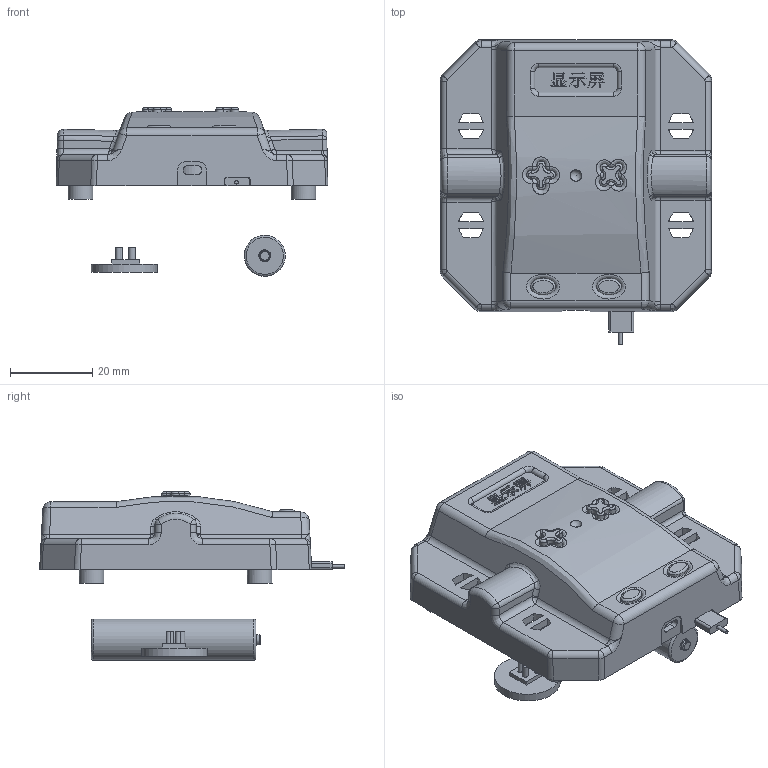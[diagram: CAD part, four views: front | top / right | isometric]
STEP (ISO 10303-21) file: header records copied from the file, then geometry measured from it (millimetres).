
FILE_DESCRIPTION(/* description */ (''),/* implementation_level */ '2;1');
FILE_NAME(/* name */ '3.stp',/* time_stamp */ '2023-04-15T14:52:05+08:00',/* author */ (''),/* organization */ (''),/* preprocessor_version */ 'ST-DEVELOPER v16.7',/* originating_system */ 'SIEMENS PLM Software NX 12.0',/* authorisation */ '');
FILE_SCHEMA (('AUTOMOTIVE_DESIGN { 1 0 10303 214 3 1 1 1 }'));
Length unit declared in the file: millimetre
Products named in the file (1): 3
Bounding box: 65.98 x 74.05 x 41 mm (x, y, z)
Volume: 21083.3 mm3; surface area: 21124.9 mm2
Topology: 10 solids, 10 shells, 729 faces, 1826 edges, 1112 vertices
Faces by surface type: plane 300, cylinder 215, bspline 104, extrusion 60, sphere 36, torus 14
Full cylindrical faces by diameter (mm): 0.869 x1, 1.061 x1, 1.262 x1, 1.349 x1, 1.683 x1, 2.5 x1, 2.896 x3, 3 x4, 6 x4, 8 x1, 10 x1, 16 x1
Entity records: 29053 total; most frequent: CARTESIAN_POINT 10980, ORIENTED_EDGE 3460, DIRECTION 2982, EDGE_CURVE 1730, VERTEX_POINT 1093, AXIS2_PLACEMENT_3D 1066, VECTOR 850, EDGE_LOOP 829
